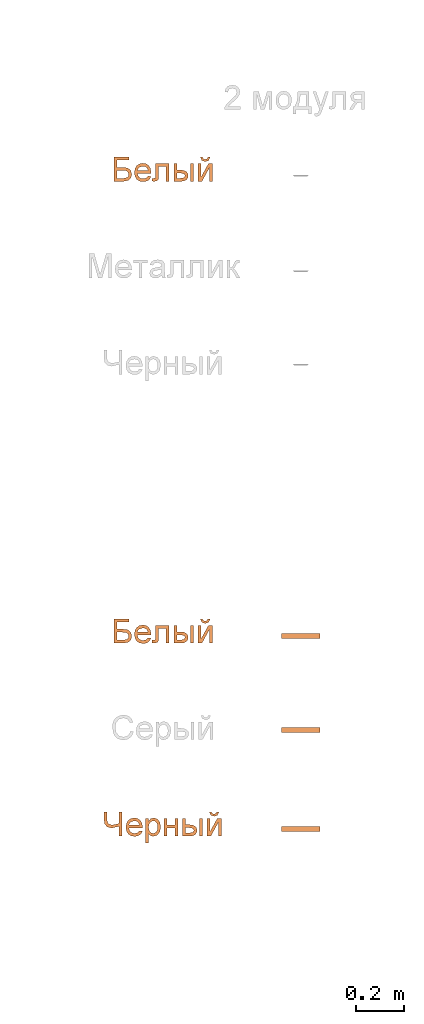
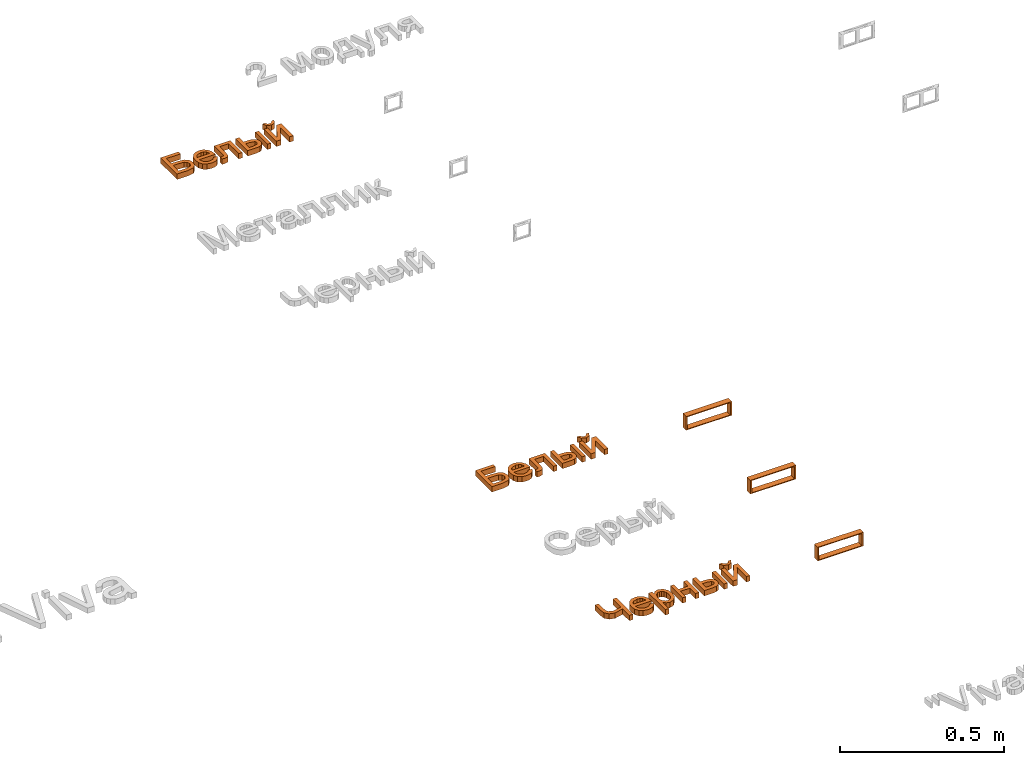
# One storey, part 68 of 87: 6 proxies.
"""IFC2X3 building model written with IfcOpenShell, lengths in millimetres."""

from ifc_helpers import new_model, entity, si_unit, converted_unit, derived_unit, direction, frame, frame_2d, origin, place, context, subcontext, project, spatial, polyline, rectangle, outline, extrude, source, transform, mapped, material, type_object, type_shapes, element, save


model = new_model("IFC2X3")

# Units and contexts
model_context = context("Model", 3, precision=0.01, world=origin(), true_north=direction((6.12303176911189e-17, 1.0)))
body_context = subcontext(model_context, "Body", "Model", "MODEL_VIEW")
ifc_project = project(units=[si_unit("LENGTHUNIT", "METRE", prefix="MILLI"), si_unit("AREAUNIT", "SQUARE_METRE"), si_unit("VOLUMEUNIT", "CUBIC_METRE"), converted_unit("PLANEANGLEUNIT", "DEGREE", entity("IfcRatioMeasure", 0.0174532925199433), si_unit("PLANEANGLEUNIT", "RADIAN"), dimensions=[0, 0, 0, 0, 0, 0, 0]), si_unit("MASSUNIT", "GRAM", prefix="KILO"), derived_unit("MASSDENSITYUNIT", [(si_unit("MASSUNIT", "GRAM", prefix="KILO"), 1), (si_unit("LENGTHUNIT", "METRE"), -3)]), si_unit("TIMEUNIT", "SECOND"), si_unit("FREQUENCYUNIT", "HERTZ"), si_unit("THERMODYNAMICTEMPERATUREUNIT", "DEGREE_CELSIUS"), derived_unit("THERMALTRANSMITTANCEUNIT", [(si_unit("MASSUNIT", "GRAM", prefix="KILO"), 1), (si_unit("THERMODYNAMICTEMPERATUREUNIT", "KELVIN"), -1), (si_unit("TIMEUNIT", "SECOND"), -3)]), derived_unit("VOLUMETRICFLOWRATEUNIT", [(si_unit("LENGTHUNIT", "METRE"), 3), (si_unit("TIMEUNIT", "SECOND"), -1)]), si_unit("ELECTRICCURRENTUNIT", "AMPERE"), si_unit("ELECTRICVOLTAGEUNIT", "VOLT"), si_unit("POWERUNIT", "WATT"), si_unit("FORCEUNIT", "NEWTON", prefix="KILO"), si_unit("ILLUMINANCEUNIT", "LUX"), si_unit("LUMINOUSFLUXUNIT", "LUMEN"), si_unit("LUMINOUSINTENSITYUNIT", "CANDELA"), derived_unit("USERDEFINED", [(si_unit("MASSUNIT", "GRAM", prefix="KILO"), -1), (si_unit("LENGTHUNIT", "METRE"), -2), (si_unit("TIMEUNIT", "SECOND"), 3), (si_unit("LUMINOUSFLUXUNIT", "LUMEN"), 1)]), derived_unit("LINEARVELOCITYUNIT", [(si_unit("LENGTHUNIT", "METRE"), 1), (si_unit("TIMEUNIT", "SECOND"), -1)]), si_unit("PRESSUREUNIT", "PASCAL"), derived_unit("USERDEFINED", [(si_unit("LENGTHUNIT", "METRE"), -2), (si_unit("MASSUNIT", "GRAM", prefix="KILO"), 1), (si_unit("TIMEUNIT", "SECOND"), -2)])], contexts=[model_context])

# Site, building, storey
site_placement = place(None, origin())
site = spatial("IfcSite", under=ifc_project, at=site_placement, Name="Default", CompositionType="ELEMENT")
building_placement = place(site_placement, origin())
building = spatial("IfcBuilding", under=site, at=building_placement, Name="Наименование здания", CompositionType="ELEMENT")
storey_placement = place(building_placement, origin())
storey = spatial("IfcBuildingStorey", under=building, at=storey_placement, Name="Этаж 01", CompositionType="ELEMENT", Elevation=0.0)

# Proxies
ifc_material_1 = material(Name="DKC_Пластик_Серо-черный")
building_element_proxy_type_1 = type_object("IfcBuildingElementProxyType", Name="Черный", PredefinedType="NOTDEFINED", material=ifc_material_1)
shared_shape_1 = source(origin(), body_context, "Body", "SweptSolid", [
    extrude(outline(polyline([(-25.5, -80.2000000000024), (25.5, -80.2000000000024), (25.5, 80.2000000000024), (-25.5, 80.2000000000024), (-25.5, -80.2000000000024)]), holes=[polyline([(-22.5, -75.0), (-22.5, 75.0), (22.5, 75.0), (22.5, -75.0), (-22.5, -75.0)])]), frame((0.0, -20.7999999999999, 0.0), z_axis=(0.0, 1.0, 0.0), x_axis=(0.0, 0.0, -1.0)), (0.0, 0.0, 1.0), 20.7999999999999),
])
type_shapes(building_element_proxy_type_1, [shared_shape_1])
proxy_1_placement = place(storey_placement, frame((77296.5462784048, -4402.33637105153, 0.0)))
element("IfcBuildingElementProxy", 1, at=proxy_1_placement, inside=storey, type_object=building_element_proxy_type_1, material=ifc_material_1, Name="КНС_Каркас6МодулейДляМонтажаЭУИСерииViva_ILF_DKC:Черный", ObjectType="Черный", context=body_context, shape_type="MappedRepresentation", body=[
    mapped(shared_shape_1, transform((0.0, 0.0, 0.0), scale=1.0)),
])
ifc_material_2 = material(Name="DKC_Пластик_Белый")
building_element_proxy_type_2 = type_object("IfcBuildingElementProxyType", Name="Белый", PredefinedType="NOTDEFINED", material=ifc_material_2)
shared_shape_2 = source(origin(), body_context, "Body", "SweptSolid", [
    extrude(outline(polyline([(-25.5, -80.2000000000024), (25.5, -80.2000000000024), (25.5, 80.2000000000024), (-25.5, 80.2000000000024), (-25.5, -80.2000000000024)]), holes=[polyline([(-22.5, -75.0), (-22.5, 75.0), (22.5, 75.0), (22.5, -75.0), (-22.5, -75.0)])]), frame((0.0, -20.7999999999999, 0.0), z_axis=(0.0, 1.0, 0.0), x_axis=(0.0, 0.0, -1.0)), (0.0, 0.0, 1.0), 20.7999999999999),
])
type_shapes(building_element_proxy_type_2, [shared_shape_2])
proxy_2_placement = place(storey_placement, frame((77296.5462784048, -3601.63040542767, 0.0)))
element("IfcBuildingElementProxy", 2, at=proxy_2_placement, inside=storey, type_object=building_element_proxy_type_2, material=ifc_material_2, Name="КНС_Каркас6МодулейДляМонтажаЭУИСерииViva_ILF_DKC:Белый", ObjectType="Белый", context=body_context, shape_type="MappedRepresentation", body=[
    mapped(shared_shape_2, transform((0.0, 0.0, 0.0), scale=1.0)),
])
ifc_material_3 = material(Name="DKC_Пластик_СерыйМеталлик")
building_element_proxy_type_3 = type_object("IfcBuildingElementProxyType", Name="Серый", PredefinedType="NOTDEFINED", material=ifc_material_3)
shared_shape_3 = source(origin(), body_context, "Body", "SweptSolid", [
    extrude(outline(polyline([(-25.5, -80.2000000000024), (25.5, -80.2000000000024), (25.5, 80.2000000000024), (-25.5, 80.2000000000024), (-25.5, -80.2000000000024)]), holes=[polyline([(-22.5, -75.0), (-22.5, 75.0), (22.5, 75.0), (22.5, -75.0), (-22.5, -75.0)])]), frame((0.0, -20.7999999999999, 0.0), z_axis=(0.0, 1.0, 0.0), x_axis=(0.0, 0.0, -1.0)), (0.0, 0.0, 1.0), 20.7999999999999),
])
type_shapes(building_element_proxy_type_3, [shared_shape_3])
proxy_3_placement = place(storey_placement, frame((77296.5462784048, -3992.33637105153, 0.0)))
element("IfcBuildingElementProxy", 3, at=proxy_3_placement, inside=storey, type_object=building_element_proxy_type_3, material=ifc_material_3, Name="КНС_Каркас6МодулейДляМонтажаЭУИСерииViva_ILF_DKC:Серый", ObjectType="Серый", context=body_context, shape_type="MappedRepresentation", body=[
    mapped(shared_shape_3, transform((0.0, 0.0, 0.0), scale=1.0)),
])
proxy_4_placement = place(storey_placement, origin())
element("IfcBuildingElementProxy", 4, at=proxy_4_placement, inside=storey, Name="Текст модели:100 мм Arial", ObjectType="Текст модели:100 мм Arial", context=body_context, shape_type="SweptSolid", body=[
    extrude(outline(polyline([(-50.9950475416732, -42.7620371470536), (49.4612626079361, -42.7620371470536), (49.4612626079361, -4.42873324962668), (45.2428823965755, 17.8649156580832), (34.3658380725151, 27.7118903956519), (20.0552284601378, 31.0105656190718), (3.57411507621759, 26.375252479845), (-6.06439319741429, 14.0389429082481), (-8.61504169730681, -6.68507615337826), (-8.61504169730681, -30.2049983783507), (-38.4380087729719, -30.2049983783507), (-38.4380087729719, 20.0231566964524), (-50.9950475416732, 20.0231566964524), (-50.9950475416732, -42.7620371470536)]), holes=[polyline([(36.9042238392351, -30.2049983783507), (3.9419970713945, -30.2049983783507), (3.9419970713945, -12.2523570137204), (5.24184678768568, 6.66904027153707), (10.4902965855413, 15.3387926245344), (20.3250085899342, 18.4535268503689), (27.5784152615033, 17.0923634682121), (32.7594200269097, 13.0088733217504), (36.9042238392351, -3.30056179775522), (36.9042238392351, -30.2049983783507)])]), frame((76564.9159480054, -1677.77974760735, 0.0), z_axis=(0.0, 0.0, 1.0), x_axis=(0.0, -1.0, 0.0)), (0.0, 0.0, 1.0), 20.0),
    extrude(outline(polyline([(-8.10128238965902, -20.3751729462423), (-15.5352214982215, -30.3140016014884), (-5.78400372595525, -33.5775071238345), (4.12185089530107, -33.3132173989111), (13.877616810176, -29.4480778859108), (23.1785684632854, -21.9090340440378), (31.638042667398, -9.59237957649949), (34.1620486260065, 3.7413532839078), (30.6040508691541, 17.2442201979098), (20.8175139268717, 30.06827682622), (7.27698270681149, 39.7846728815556), (-6.66179525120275, 43.1117813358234), (-19.9642596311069, 40.4221234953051), (-31.5958501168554, 32.0882206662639), (-39.2435519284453, 20.5090048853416), (-41.3106827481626, 7.34319797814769), (-37.4373707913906, -6.34962495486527), (-27.2637442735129, -19.5098888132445), (-24.7804584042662, -21.8106804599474), (14.4643272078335, 18.7422646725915), (19.7071986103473, 10.6437992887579), (21.1614672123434, 2.21005051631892), (19.147208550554, -5.98136753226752), (13.9844981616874, -13.3528407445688), (3.53684605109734, -20.3751729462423), (-8.10128238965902, -20.3751729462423)]), holes=[polyline([(5.44081225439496, 27.474698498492), (-25.1227061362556, -4.1076038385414), (-29.803881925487, 7.41909510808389), (-27.8851342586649, 15.7498710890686), (-22.5382240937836, 23.3910349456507), (-8.40970331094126, 31.2368652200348), (-1.08072680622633, 30.9147288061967), (5.44081225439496, 27.474698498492)])]), frame((76642.997995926, -1696.91845939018, 0.0), z_axis=(0.0, 0.0, -1.0), x_axis=(-0.695421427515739, -0.718602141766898, 0.0)), (0.0, 0.0, -1.0), 20.0),
    extrude(outline(polyline([(-49.3689973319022, 12.5447760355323), (-49.3689973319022, -43.9618984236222), (24.3300290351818, -43.9618984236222), (24.3300290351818, -31.4048596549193), (-36.8119585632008, -31.4048596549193), (-36.8119585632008, -0.0122627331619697), (-1.61791435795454, -0.0122627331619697), (14.6179443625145, 0.833865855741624), (21.4728122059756, 5.48144172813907), (24.4036054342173, 16.4688506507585), (23.7659433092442, 26.6714446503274), (11.8465666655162, 26.6714446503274), (11.8465666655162, 21.0551128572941), (11.0740144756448, 15.3774673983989), (8.62146784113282, 13.1088617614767), (-2.32915288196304, 12.5447760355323), (-49.3689973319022, 12.5447760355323)])), frame((76707.3579699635, -1702.83740478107, 0.0), z_axis=(0.0, 0.0, -1.0), x_axis=(0.0, -1.0, 0.0)), (0.0, 0.0, -1.0), 20.0),
    extrude(outline(polyline([(-42.3988715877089, -34.5139341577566), (31.3737311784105, -34.5139341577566), (31.3737311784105, -3.73447389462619), (29.6538828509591, 9.3161398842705), (24.4943378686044, 18.2526066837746), (16.9129030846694, 23.4121516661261), (7.92738535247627, 25.1319999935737), (-1.94104916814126, 23.081057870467), (-9.42438208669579, 16.9282315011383), (-14.1424686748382, 6.9862205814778), (-15.715164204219, -6.43227519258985), (-15.715164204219, -21.9568953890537), (-42.3988715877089, -21.9568953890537), (-42.3988715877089, -34.5139341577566)]), holes=[polyline([(18.8166924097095, -21.9568953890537), (-3.15812543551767, -21.9568953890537), (-3.15812543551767, -7.41329384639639), (0.226388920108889, 8.88387853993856), (7.95191081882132, 12.5749612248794), (16.180204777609, 7.59629155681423), (18.8166924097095, -9.05650009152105), (18.8166924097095, -21.9568953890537)])]), frame((76804.6693606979, -1695.86727903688, 0.0), z_axis=(0.0, 0.0, 1.0), x_axis=(0.0, -1.0, 0.0)), (0.0, 0.0, 1.0), 20.0),
    extrude(outline(polyline([(-11.1429830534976, -6.65049913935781), (-15.3141401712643, -15.0941956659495), (-0.0922190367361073, -15.8161107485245), (10.2631635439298, -5.8454754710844), (12.4162171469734, 9.42172447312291), (2.76087400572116, 21.4951559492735), (-1.41028311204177, 13.0514594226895), (3.3692997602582, 6.75127419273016), (2.3191368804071, -0.662833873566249), (-3.16906596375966, -6.65049913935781), (-11.1429830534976, -6.65049913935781)])), frame((76900.5242217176, -1633.82964027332, 0.0), z_axis=(0.0, 0.0, -1.0), x_axis=(-0.442902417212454, -0.896569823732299, 0.0)), (0.0, 0.0, -1.0), 20.0),
    extrude(outline(polyline([(-36.9206370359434, -29.8425874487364), (36.851965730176, -29.8425874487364), (36.851965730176, -13.4105249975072), (-19.0660975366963, 17.2463079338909), (36.851965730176, 17.2463079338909), (36.851965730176, 29.8033467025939), (-36.9206370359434, 29.8033467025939), (-36.9206370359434, 13.5674879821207), (19.3407827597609, -17.2855486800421), (-36.9206370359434, -17.2855486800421), (-36.9206370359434, -29.8425874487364)])), frame((76900.4543241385, -1690.38904448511, 0.0), z_axis=(0.0, 0.0, 1.0), x_axis=(0.0, -1.0, 0.0)), (0.0, 0.0, 1.0), 20.0),
    extrude(rectangle(XDim=73.7726027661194, YDim=12.5570387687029, at=frame_2d((-2.70006239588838e-13, 0.0), x_axis=(1.0, 0.0))), frame((76845.4976591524, -1690.35470883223, 0.0), z_axis=(0.0, 0.0, 1.0), x_axis=(0.0, -1.0, 0.0)), (0.0, 0.0, 1.0), 20.0),
])
proxy_5_placement = place(storey_placement, origin())
element("IfcBuildingElementProxy", 5, at=proxy_5_placement, inside=storey, Name="Текст модели:100 мм Arial", ObjectType="Текст модели:100 мм Arial", context=body_context, shape_type="SweptSolid", body=[
    extrude(outline(polyline([(-50.9950475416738, -42.7620371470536), (49.4612626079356, -42.7620371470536), (49.4612626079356, -4.42873324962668), (45.2428823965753, 17.8649156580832), (34.3658380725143, 27.7118903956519), (20.0552284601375, 31.0105656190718), (3.57411507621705, 26.375252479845), (-6.0643931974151, 14.0389429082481), (-8.61504169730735, -6.68507615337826), (-8.61504169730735, -30.2049983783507), (-38.4380087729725, -30.2049983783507), (-38.4380087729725, 20.0231566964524), (-50.9950475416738, 20.0231566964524), (-50.9950475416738, -42.7620371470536)]), holes=[polyline([(36.9042238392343, -30.2049983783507), (3.94199707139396, -30.2049983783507), (3.94199707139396, -12.2523570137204), (5.24184678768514, 6.66904027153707), (10.4902965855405, 15.3387926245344), (20.3250085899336, 18.4535268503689), (27.5784152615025, 17.0923634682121), (32.7594200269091, 13.0088733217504), (36.9042238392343, -3.30056179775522), (36.9042238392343, -30.2049983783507)])]), frame((76564.9159480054, -3592.8751084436, 0.0), z_axis=(0.0, 0.0, 1.0), x_axis=(0.0, -1.0, 0.0)), (0.0, 0.0, 1.0), 20.0),
    extrude(outline(polyline([(-8.10128238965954, -20.375172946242), (-15.5352214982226, -30.3140016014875), (-5.78400372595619, -33.577507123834), (4.12185089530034, -33.313217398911), (13.877616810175, -29.4480778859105), (23.1785684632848, -21.909034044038), (31.6380426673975, -9.59237957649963), (34.1620486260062, 3.74135328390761), (30.6040508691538, 17.2442201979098), (20.817513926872, 30.0682768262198), (7.27698270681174, 39.7846728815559), (-6.66179525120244, 43.1117813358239), (-19.9642596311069, 40.422123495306), (-31.5958501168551, 32.0882206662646), (-39.2435519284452, 20.5090048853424), (-41.3106827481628, 7.34319797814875), (-37.4373707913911, -6.34962495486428), (-27.2637442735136, -19.5098888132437), (-24.7804584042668, -21.8106804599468), (14.4643272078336, 18.7422646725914), (19.7071986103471, 10.6437992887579), (21.1614672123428, 2.21005051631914), (19.1472085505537, -5.98136753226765), (13.9844981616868, -13.3528407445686), (3.53684605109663, -20.375172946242), (-8.10128238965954, -20.375172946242)]), holes=[polyline([(5.44081225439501, 27.4746984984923), (-25.122706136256, -4.10760383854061), (-29.8038819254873, 7.41909510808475), (-27.8851342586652, 15.7498710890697), (-22.5382240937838, 23.3910349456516), (-8.40970331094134, 31.2368652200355), (-1.08072680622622, 30.9147288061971), (5.44081225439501, 27.4746984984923)])]), frame((76642.997995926, -3612.01382022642, 0.0), z_axis=(0.0, 0.0, -1.0), x_axis=(-0.69542142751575, -0.718602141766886, 0.0)), (0.0, 0.0, -1.0), 20.0),
    extrude(outline(polyline([(-49.3689973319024, 12.5447760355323), (-49.3689973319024, -43.9618984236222), (24.3300290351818, -43.9618984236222), (24.3300290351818, -31.4048596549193), (-36.8119585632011, -31.4048596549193), (-36.8119585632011, -0.0122627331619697), (-1.61791435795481, -0.0122627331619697), (14.6179443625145, 0.833865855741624), (21.4728122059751, 5.48144172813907), (24.403605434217, 16.4688506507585), (23.765943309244, 26.6714446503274), (11.8465666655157, 26.6714446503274), (11.8465666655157, 21.0551128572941), (11.0740144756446, 15.3774673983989), (8.62146784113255, 13.1088617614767), (-2.32915288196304, 12.5447760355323), (-49.3689973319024, 12.5447760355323)])), frame((76707.3579699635, -3617.93276561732, 0.0), z_axis=(0.0, 0.0, -1.0), x_axis=(0.0, -1.0, 0.0)), (0.0, 0.0, -1.0), 20.0),
    extrude(outline(polyline([(-42.3988715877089, -34.5139341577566), (31.3737311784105, -34.5139341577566), (31.3737311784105, -3.73447389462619), (29.6538828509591, 9.3161398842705), (24.4943378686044, 18.2526066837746), (16.9129030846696, 23.4121516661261), (7.92738535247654, 25.1319999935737), (-1.94104916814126, 23.081057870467), (-9.42438208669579, 16.9282315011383), (-14.1424686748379, 6.9862205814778), (-15.715164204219, -6.43227519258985), (-15.715164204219, -21.9568953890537), (-42.3988715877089, -21.9568953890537), (-42.3988715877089, -34.5139341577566)]), holes=[polyline([(18.8166924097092, -21.9568953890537), (-3.15812543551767, -21.9568953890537), (-3.15812543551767, -7.41329384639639), (0.226388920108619, 8.88387853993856), (7.95191081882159, 12.5749612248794), (16.180204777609, 7.59629155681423), (18.8166924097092, -9.05650009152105), (18.8166924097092, -21.9568953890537)])]), frame((76804.6693606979, -3610.96263987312, 0.0), z_axis=(0.0, 0.0, 1.0), x_axis=(0.0, -1.0, 0.0)), (0.0, 0.0, 1.0), 20.0),
    extrude(outline(polyline([(-11.1429830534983, -6.65049913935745), (-15.3141401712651, -15.0941956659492), (-0.0922190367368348, -15.8161107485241), (10.2631635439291, -5.84547547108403), (12.4162171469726, 9.42172447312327), (2.76087400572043, 21.4951559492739), (-1.4102831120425, 13.0514594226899), (3.36929976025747, 6.75127419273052), (2.31913688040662, -0.662833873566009), (-3.16906596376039, -6.65049913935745), (-11.1429830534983, -6.65049913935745)])), frame((76900.5242217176, -3548.92500110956, 0.0), z_axis=(0.0, 0.0, -1.0), x_axis=(-0.442902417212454, -0.896569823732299, 0.0)), (0.0, 0.0, -1.0), 20.0),
    extrude(outline(polyline([(-36.9206370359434, -29.8425874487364), (36.851965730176, -29.8425874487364), (36.851965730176, -13.4105249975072), (-19.0660975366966, 17.2463079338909), (36.851965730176, 17.2463079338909), (36.851965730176, 29.8033467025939), (-36.9206370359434, 29.8033467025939), (-36.9206370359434, 13.5674879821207), (19.3407827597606, -17.2855486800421), (-36.9206370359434, -17.2855486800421), (-36.9206370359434, -29.8425874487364)])), frame((76900.4543241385, -3605.48440532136, 0.0), z_axis=(0.0, 0.0, 1.0), x_axis=(0.0, -1.0, 0.0)), (0.0, 0.0, 1.0), 20.0),
    extrude(rectangle(XDim=73.7726027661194, YDim=12.5570387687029, at=frame_2d((-2.70006239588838e-13, 0.0), x_axis=(1.0, 0.0))), frame((76845.4976591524, -3605.45006966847, 0.0), z_axis=(0.0, 0.0, 1.0), x_axis=(0.0, -1.0, 0.0)), (0.0, 0.0, 1.0), 20.0),
])
proxy_6_placement = place(storey_placement, origin())
element("IfcBuildingElementProxy", 6, at=proxy_6_placement, inside=storey, Name="Текст модели:100 мм Arial", ObjectType="Текст модели:100 мм Arial", context=body_context, shape_type="SweptSolid", body=[
    extrude(outline(polyline([(-57.0521744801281, -41.5683661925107), (43.4041356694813, -41.5683661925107), (43.4041356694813, -29.0113274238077), (-5.30344049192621, -29.0113274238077), (-11.5329089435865, 0.689012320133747), (-6.37029827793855, 15.1835629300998), (1.59741260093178, 19.7085114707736), (15.1753239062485, 21.2168276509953), (43.4041356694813, 21.2168276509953), (43.4041356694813, 33.7738664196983), (13.4830667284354, 33.7738664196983), (-6.51745107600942, 31.0883278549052), (-19.1235407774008, 20.4442754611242), (-24.0899477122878, 2.08696390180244), (-16.830409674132, -29.0113274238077), (-57.0521744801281, -29.0113274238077), (-57.0521744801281, -41.5683661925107)])), frame((76514.3325863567, -4385.28419657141, 0.0), z_axis=(0.0, 0.0, 1.0), x_axis=(0.0, 1.0, 0.0)), (0.0, 0.0, 1.0), 20.0),
    extrude(outline(polyline([(-8.10128238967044, -20.3751729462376), (-15.5352214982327, -30.314001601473), (-5.78400372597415, -33.5775071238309), (4.12185089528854, -33.313217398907), (13.8776168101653, -29.4480778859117), (23.1785684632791, -21.9090340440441), (31.6380426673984, -9.59237957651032), (34.1620486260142, 3.74135328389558), (30.604050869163, 17.2442201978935), (20.8175139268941, 30.0682768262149), (7.27698270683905, 39.7846728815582), (-6.66179525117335, 43.1117813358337), (-19.9642596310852, 40.4221234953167), (-31.5958501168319, 32.0882206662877), (-39.2435519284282, 20.5090048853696), (-41.3106827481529, 7.34319797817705), (-37.4373707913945, -6.34962495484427), (-27.2637442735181, -19.5098888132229), (-24.7804584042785, -21.8106804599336), (14.4643272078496, 18.7422646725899), (19.7071986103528, 10.6437992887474), (21.16146721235, 2.21005051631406), (19.1472085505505, -5.98136753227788), (13.9844981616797, -13.3528407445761), (3.53684605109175, -20.3751729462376), (-8.10128238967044, -20.3751729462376)]), holes=[polyline([(5.44081225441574, 27.4746984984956), (-25.1227061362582, -4.10760383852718), (-29.8038819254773, 7.41909510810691), (-27.8851342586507, 15.7498710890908), (-22.5382240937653, 23.3910349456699), (-8.40970331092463, 31.23686522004), (-1.08072680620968, 30.9147288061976), (5.44081225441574, 27.4746984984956)])]), frame((76607.681324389, -4412.01382022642, 0.0), z_axis=(0.0, 0.0, -1.0), x_axis=(-0.695421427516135, -0.718602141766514, 0.0)), (0.0, 0.0, -1.0), 20.0),
    extrude(outline(polyline([(-28.8983569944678, -61.2335493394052), (-16.3413182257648, -61.2335493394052), (-16.3413182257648, -23.1700255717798), (-8.38280439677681, -31.3247431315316), (2.5432908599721, -34.5498419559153), (18.4235303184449, -29.7305878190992), (29.9259740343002, -15.8736993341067), (33.8868368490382, 4.47017499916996), (30.3796951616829, 23.8207679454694), (19.9808974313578, 37.505978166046), (4.06386977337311, 42.3620205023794), (-7.65930313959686, 38.8916670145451), (-16.3413182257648, 28.4806065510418), (-16.3413182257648, 40.7923906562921), (-28.8983569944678, 40.7923906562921), (-28.8983569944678, -61.2335493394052)]), holes=[polyline([(-16.3413182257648, 3.31747808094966), (-14.8912500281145, 14.7064915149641), (-10.541045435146, 23.0236902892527), (-4.30851130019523, 28.1096588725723), (2.78854552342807, 29.8049817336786), (9.85801119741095, 28.2108264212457), (15.8606190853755, 23.4283604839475), (19.9625033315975, 15.4453211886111), (21.3297980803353, 4.24944580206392), (19.9287808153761, -7.43080754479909), (15.7257290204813, -15.5916564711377), (9.5606399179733, -20.3925165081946), (2.27351073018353, -21.9928031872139), (-4.89712249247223, -20.4476988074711), (-10.9089274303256, -15.8123856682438), (-14.9832205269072, -7.93971097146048), (-16.3413182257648, 3.31747808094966)])]), frame((76682.1163600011, -4409.35615894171, 0.0)), (0.0, 0.0, 1.0), 20.0),
    extrude(outline(polyline([(-36.1014864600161, -29.0381521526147), (37.6711163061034, -29.0381521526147), (37.6711163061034, -16.4811133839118), (4.70888953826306, -16.4811133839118), (4.70888953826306, 16.4811133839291), (37.6711163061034, 16.4811133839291), (37.6711163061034, 29.038152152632), (-36.1014864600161, 29.038152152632), (-36.1014864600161, 16.4811133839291), (-7.84814923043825, 16.4811133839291), (-7.84814923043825, -16.4811133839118), (-36.1014864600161, -16.4811133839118), (-36.1014864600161, -29.0381521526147)])), frame((76759.1680176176, -4404.66525474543, 0.0), z_axis=(0.0, 0.0, 1.0), x_axis=(0.0, -1.0, 0.0)), (0.0, 0.0, 1.0), 20.0),
    extrude(outline(polyline([(-42.3988715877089, -34.5139341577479), (31.3737311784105, -34.5139341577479), (31.3737311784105, -3.73447389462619), (29.6538828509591, 9.3161398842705), (24.4943378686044, 18.2526066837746), (16.9129030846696, 23.4121516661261), (7.92738535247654, 25.1319999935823), (-1.94104916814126, 23.081057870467), (-9.42438208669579, 16.9282315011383), (-14.1424686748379, 6.98622058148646), (-15.715164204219, -6.43227519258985), (-15.715164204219, -21.9568953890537), (-42.3988715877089, -21.9568953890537), (-42.3988715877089, -34.5139341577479)]), holes=[polyline([(18.8166924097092, -21.9568953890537), (-3.15812543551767, -21.9568953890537), (-3.15812543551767, -7.41329384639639), (0.226388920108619, 8.88387853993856), (7.95191081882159, 12.5749612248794), (16.180204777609, 7.59629155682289), (18.8166924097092, -9.05650009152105), (18.8166924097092, -21.9568953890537)])]), frame((76841.555662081, -4410.96263987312, 0.0), z_axis=(0.0, 0.0, 1.0), x_axis=(0.0, -1.0, 0.0)), (0.0, 0.0, 1.0), 20.0),
    extrude(outline(polyline([(-11.1429830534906, -6.65049913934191), (-15.3141401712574, -15.0941956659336), (-0.0922190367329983, -15.8161107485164), (10.2631635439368, -5.8454754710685), (12.4162171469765, 9.42172447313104), (2.76087400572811, 21.4951559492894), (-1.41028311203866, 13.0514594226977), (3.36929976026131, 6.75127419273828), (2.31913688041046, -0.662833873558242), (-3.16906596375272, -6.65049913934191), (-11.1429830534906, -6.65049913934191)])), frame((76937.4105231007, -4348.92500110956, 0.0), z_axis=(0.0, 0.0, -1.0), x_axis=(-0.442902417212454, -0.896569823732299, 0.0)), (0.0, 0.0, -1.0), 20.0),
    extrude(outline(polyline([(-36.9206370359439, -29.8425874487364), (36.8519657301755, -29.8425874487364), (36.8519657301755, -13.4105249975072), (-19.0660975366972, 17.2463079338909), (36.8519657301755, 17.2463079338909), (36.8519657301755, 29.8033467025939), (-36.9206370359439, 29.8033467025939), (-36.9206370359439, 13.5674879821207), (19.34078275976, -17.2855486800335), (-36.9206370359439, -17.2855486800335), (-36.9206370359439, -29.8425874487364)])), frame((76937.3406255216, -4405.48440532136, 0.0), z_axis=(0.0, 0.0, 1.0), x_axis=(0.0, -1.0, 0.0)), (0.0, 0.0, 1.0), 20.0),
    extrude(rectangle(XDim=73.7726027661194, YDim=12.5570387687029, at=frame_2d((-2.70006239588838e-13, 0.0), x_axis=(1.0, 0.0))), frame((76882.3839605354, -4405.45006966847, 0.0), z_axis=(0.0, 0.0, 1.0), x_axis=(0.0, -1.0, 0.0)), (0.0, 0.0, 1.0), 20.0),
])

save(model, "model.ifc")
